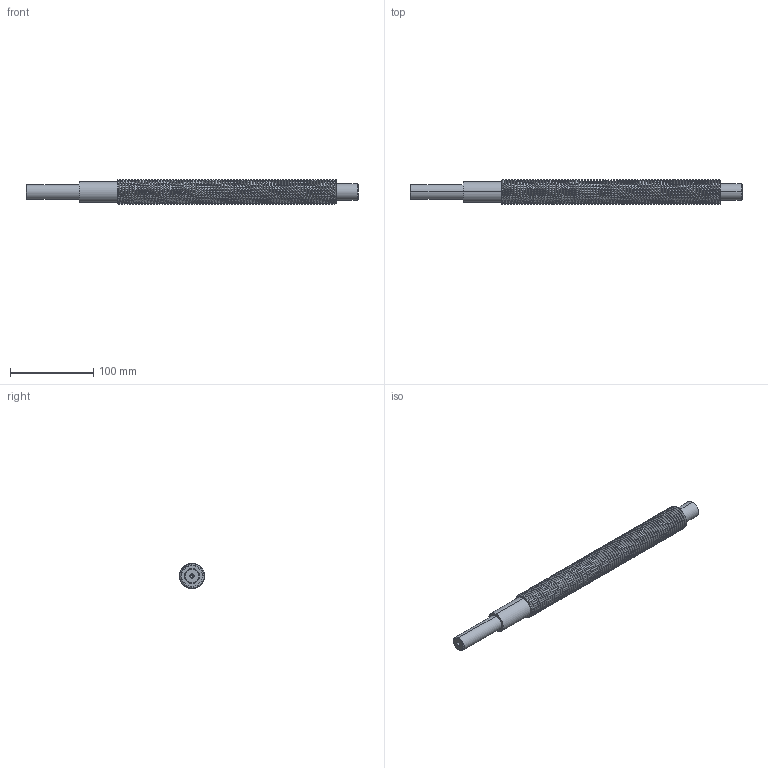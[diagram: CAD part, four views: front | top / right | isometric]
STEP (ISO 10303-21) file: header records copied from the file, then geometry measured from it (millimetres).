
FILE_DESCRIPTION (( 'STEP AP203' ), '1' );
FILE_NAME ('084.812.021.STEP', '2018-03-12T08:09:25', ( '' ), ( '' ), 'SwSTEP 2.0', 'SolidWorks 2016', '' );
FILE_SCHEMA (( 'CONFIG_CONTROL_DESIGN' ));
Length unit declared in the file: millimetre
Products named in the file (1): 084.812.021
Bounding box: 398.5 x 29.95 x 29.95 mm (x, y, z)
Volume: 209132.3 mm3; surface area: 46949.5 mm2
Topology: 1 solids, 1 shells, 241 faces, 699 edges, 463 vertices
Faces by surface type: cylinder 178, bspline 46, plane 11, cone 6
Entity records: 96134 total; most frequent: CARTESIAN_POINT 91233, ORIENTED_EDGE 1394, EDGE_CURVE 697, DIRECTION 625, VERTEX_POINT 463, EDGE_LOOP 246, FACE_OUTER_BOUND 241, ADVANCED_FACE 241
